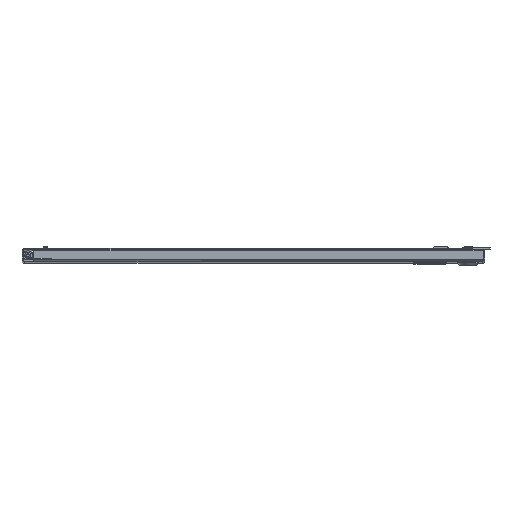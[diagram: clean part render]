
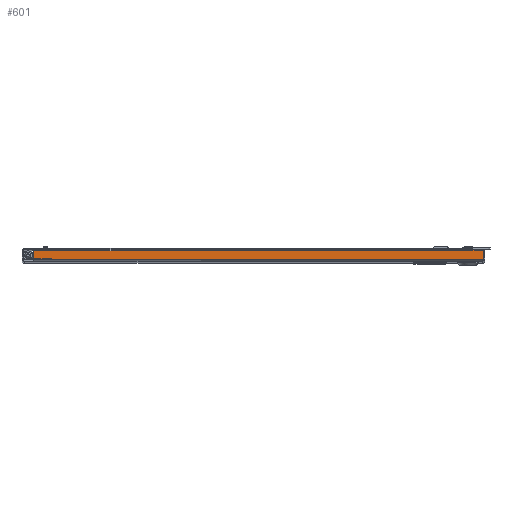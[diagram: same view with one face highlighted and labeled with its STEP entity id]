
A CAD part, top view. The second image highlights one B-rep face of the part: STEP entity #601.
In plain terms, the highlighted planar face has unit normal (0, 0, 1).
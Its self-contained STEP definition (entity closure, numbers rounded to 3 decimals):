
#601 = ADVANCED_FACE( '', ( #1293 ), #1294, .T. );
#1293 = FACE_OUTER_BOUND( '', #2207, .T. );
#1294 = PLANE( '', #2208 );
#2207 = EDGE_LOOP( '', ( #3598, #3599, #3600, #3601, #3602, #3603, #3604 ) );
#2208 = AXIS2_PLACEMENT_3D( '', #3605, #3606, #3607 );
#3598 = ORIENTED_EDGE( '', *, *, #5358, .T. );
#3599 = ORIENTED_EDGE( '', *, *, #5649, .T. );
#3600 = ORIENTED_EDGE( '', *, *, #5650, .F. );
#3601 = ORIENTED_EDGE( '', *, *, #5651, .F. );
#3602 = ORIENTED_EDGE( '', *, *, #5530, .F. );
#3603 = ORIENTED_EDGE( '', *, *, #5652, .T. );
#3604 = ORIENTED_EDGE( '', *, *, #5653, .T. );
#3605 = CARTESIAN_POINT( '', ( -233.604, 1.181, 708.025 ) );
#3606 = DIRECTION( '', ( 0., 0., 1. ) );
#3607 = DIRECTION( '', ( 0., -1., 0. ) );
#5358 = EDGE_CURVE( '', #6254, #6263, #6265, .T. );
#5530 = EDGE_CURVE( '', #6566, #6568, #6569, .T. );
#5649 = EDGE_CURVE( '', #6263, #6765, #6766, .T. );
#5650 = EDGE_CURVE( '', #6767, #6765, #6768, .T. );
#5651 = EDGE_CURVE( '', #6568, #6767, #6769, .T. );
#5652 = EDGE_CURVE( '', #6566, #6770, #6771, .T. );
#5653 = EDGE_CURVE( '', #6770, #6254, #6772, .T. );
#6254 = VERTEX_POINT( '', #7594 );
#6263 = VERTEX_POINT( '', #7611 );
#6265 = LINE( '', #7614, #7615 );
#6566 = VERTEX_POINT( '', #8055 );
#6568 = VERTEX_POINT( '', #8057 );
#6569 = LINE( '', #8058, #8059 );
#6765 = VERTEX_POINT( '', #8344 );
#6766 = LINE( '', #8345, #8346 );
#6767 = VERTEX_POINT( '', #8347 );
#6768 = LINE( '', #8348, #8349 );
#6769 = LINE( '', #8350, #8351 );
#6770 = VERTEX_POINT( '', #8352 );
#6771 = LINE( '', #8353, #8354 );
#6772 = LINE( '', #8355, #8356 );
#7594 = CARTESIAN_POINT( '', ( 243.256, 2.184, 708.025 ) );
#7611 = CARTESIAN_POINT( '', ( 243.256, 12.04, 708.025 ) );
#7614 = CARTESIAN_POINT( '', ( 243.256, 1.181, 708.025 ) );
#7615 = VECTOR( '', #9588, 1000. );
#8055 = CARTESIAN_POINT( '', ( -233.604, 11.303, 708.025 ) );
#8057 = CARTESIAN_POINT( '', ( 232.156, 11.303, 708.025 ) );
#8058 = CARTESIAN_POINT( '', ( 232.156, 11.303, 708.025 ) );
#8059 = VECTOR( '', #9797, 1000. );
#8344 = CARTESIAN_POINT( '', ( 232.158, 12.04, 708.025 ) );
#8345 = CARTESIAN_POINT( '', ( 244.729, 12.04, 708.025 ) );
#8346 = VECTOR( '', #9916, 1000. );
#8347 = CARTESIAN_POINT( '', ( 232.158, 11.303, 708.025 ) );
#8348 = CARTESIAN_POINT( '', ( 232.158, 11.303, 708.025 ) );
#8349 = VECTOR( '', #9917, 1000. );
#8350 = CARTESIAN_POINT( '', ( 232.156, 11.303, 708.025 ) );
#8351 = VECTOR( '', #9918, 1000. );
#8352 = CARTESIAN_POINT( '', ( -233.604, 2.184, 708.025 ) );
#8353 = CARTESIAN_POINT( '', ( -233.604, 1.181, 708.025 ) );
#8354 = VECTOR( '', #9919, 1000. );
#8355 = CARTESIAN_POINT( '', ( -233.604, 2.184, 708.025 ) );
#8356 = VECTOR( '', #9920, 1000. );
#9588 = DIRECTION( '', ( 0., 1., 0. ) );
#9797 = DIRECTION( '', ( 1., 0., 0. ) );
#9916 = DIRECTION( '', ( -1., 0., 0. ) );
#9917 = DIRECTION( '', ( 0., 1., 0. ) );
#9918 = DIRECTION( '', ( 1., 0., 0. ) );
#9919 = DIRECTION( '', ( 0., -1., 0. ) );
#9920 = DIRECTION( '', ( 1., 0., 0. ) );
